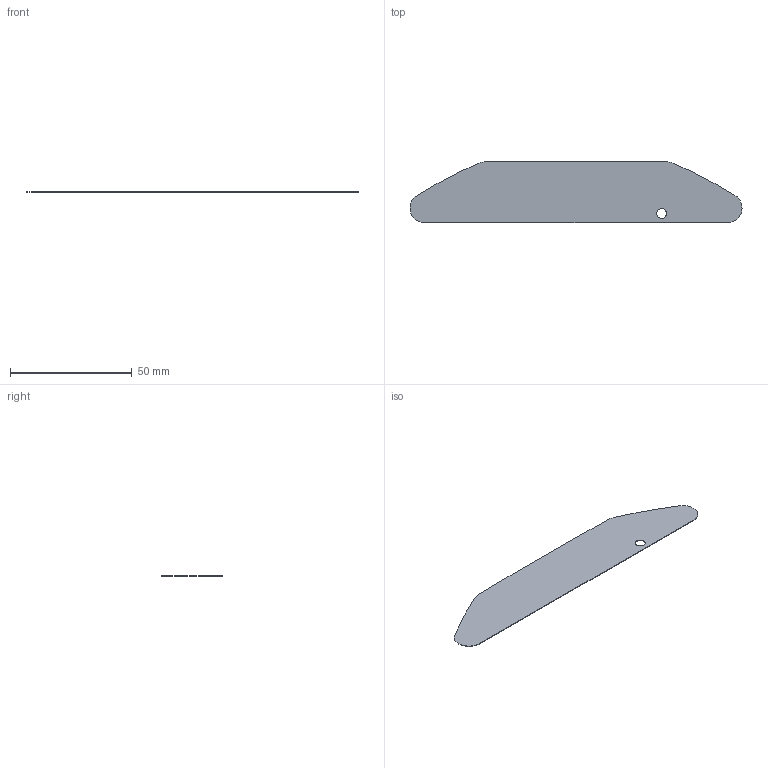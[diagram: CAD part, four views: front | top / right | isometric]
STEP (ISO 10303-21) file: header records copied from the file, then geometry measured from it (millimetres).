
FILE_DESCRIPTION (( 'STEP AP203' ), '1' );
FILE_NAME ('CL-711 TOP DECAL.STEP', '2018-02-13T21:12:06', ( '' ), ( '' ), 'SwSTEP 2.0', 'SolidWorks 2018', '' );
FILE_SCHEMA (( 'CONFIG_CONTROL_DESIGN' ));
Length unit declared in the file: inch
Products named in the file (1): CL-711 TOP DECAL
Bounding box: 136.47 x 25.36 x 0.25 mm (x, y, z)
Volume: 756.3 mm3; surface area: 6032.6 mm2
Topology: 1 solids, 1 shells, 13 faces, 33 edges, 22 vertices
Faces by surface type: cylinder 10, plane 3
Entity records: 490 total; most frequent: DIRECTION 81, CARTESIAN_POINT 69, ORIENTED_EDGE 66, AXIS2_PLACEMENT_3D 34, EDGE_CURVE 33, VERTEX_POINT 22, CIRCLE 20, EDGE_LOOP 15
